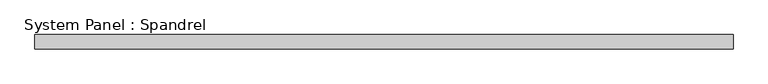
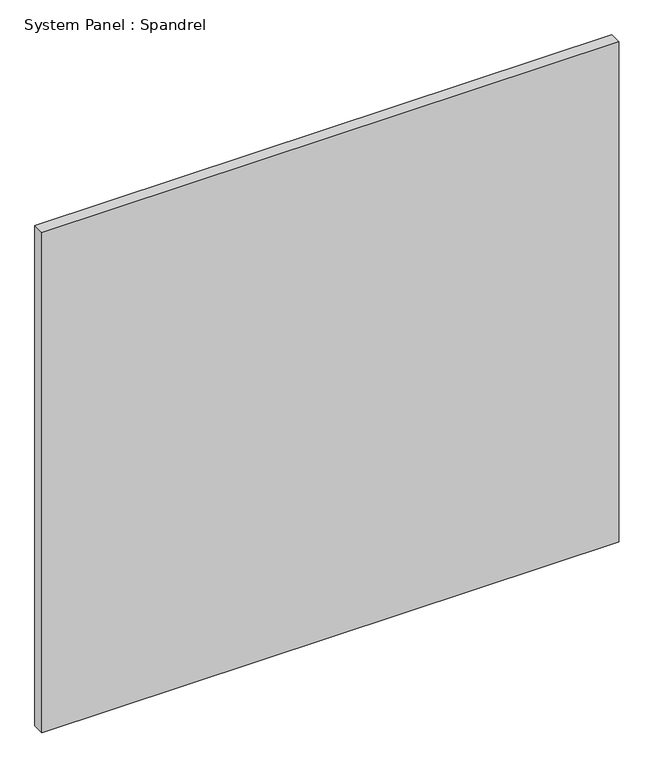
"""IFC4 building model written with IfcOpenShell, lengths in millimetres: plate geometry, System Panel : Spandrel."""

from ifc_helpers import new_model, si_unit, origin, origin_with_axes, place, context, project, spatial, polyline, outline, extrude, source, transform, mapped, element, save


def system_panel_spandrel_4c114eb6(model_context):
    return source(origin(), model_context, "Body", "SweptSolid", [
        extrude(outline(polyline([(600.0, 0.0), (-600.0, 0.0), (-600.0, 25.0), (600.0, 25.0), (600.0, 0.0)])), origin_with_axes(), (0.0, 0.0, 1.0), 1100.0),
    ])


if __name__ == "__main__":
    model = new_model("IFC4")
    model_context = context("Model", 3, world=origin())
    ifc_project = project(units=[si_unit("LENGTHUNIT", "METRE", prefix="MILLI")], contexts=[model_context])
    site = spatial("IfcSite", under=ifc_project)
    building = spatial("IfcBuilding", under=site)
    placement = place(None, origin())
    system_panel_spandrel_shape = system_panel_spandrel_4c114eb6(model_context)
    element("IfcPlate", 1, ObjectType="System Panel : Spandrel", at=placement, inside=building, context=model_context, shape_type="MappedRepresentation", body=[
        mapped(system_panel_spandrel_shape, transform((0.0, 0.0, 0.0), x_axis=(1.0, 0.0, 0.0), y_axis=(0.0, 1.0, 0.0), z_axis=(0.0, 0.0, 1.0))),
    ])
    save(model, "model.ifc")
